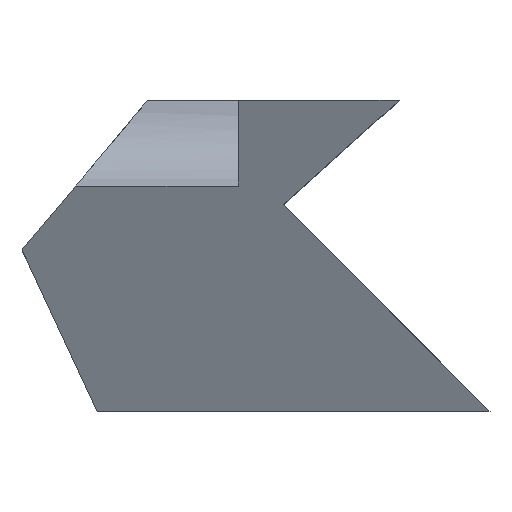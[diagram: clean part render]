
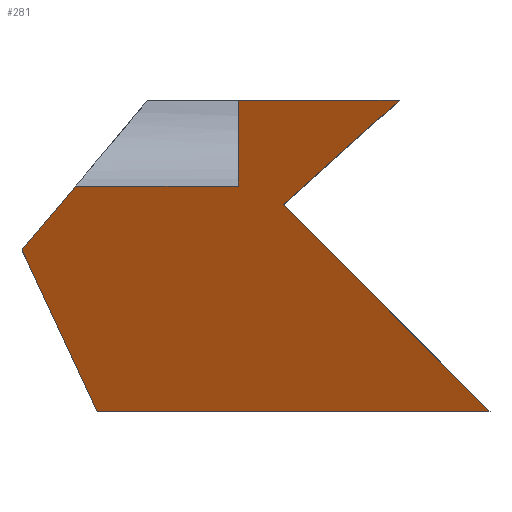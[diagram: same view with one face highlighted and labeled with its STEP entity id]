
A CAD part, top view. The second image highlights one B-rep face of the part: STEP entity #281.
In plain terms, the highlighted planar face has unit normal (0, -0.423, 0.906).
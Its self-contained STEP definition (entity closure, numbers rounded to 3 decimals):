
#16=PLANE('',#321);
#31=FACE_OUTER_BOUND('',#46,.T.);
#46=EDGE_LOOP('',(#207,#208,#209,#210,#211,#212,#213,#214));
#61=LINE('',#411,#98);
#63=LINE('',#419,#100);
#65=LINE('',#423,#102);
#66=LINE('',#425,#103);
#67=LINE('',#427,#104);
#68=LINE('',#429,#105);
#69=LINE('',#431,#106);
#70=LINE('',#432,#107);
#98=VECTOR('',#338,10.);
#100=VECTOR('',#346,10.);
#102=VECTOR('',#350,10.);
#103=VECTOR('',#351,10.);
#104=VECTOR('',#352,10.);
#105=VECTOR('',#353,10.);
#106=VECTOR('',#354,10.);
#107=VECTOR('',#355,10.);
#135=VERTEX_POINT('',#409);
#136=VERTEX_POINT('',#410);
#139=VERTEX_POINT('',#418);
#140=VERTEX_POINT('',#422);
#141=VERTEX_POINT('',#424);
#142=VERTEX_POINT('',#426);
#143=VERTEX_POINT('',#428);
#144=VERTEX_POINT('',#430);
#161=EDGE_CURVE('',#135,#136,#61,.T.);
#165=EDGE_CURVE('',#139,#135,#63,.T.);
#167=EDGE_CURVE('',#140,#136,#65,.T.);
#168=EDGE_CURVE('',#141,#140,#66,.T.);
#169=EDGE_CURVE('',#142,#141,#67,.T.);
#170=EDGE_CURVE('',#143,#142,#68,.T.);
#171=EDGE_CURVE('',#144,#143,#69,.T.);
#172=EDGE_CURVE('',#144,#139,#70,.T.);
#207=ORIENTED_EDGE('',*,*,#165,.T.);
#208=ORIENTED_EDGE('',*,*,#161,.T.);
#209=ORIENTED_EDGE('',*,*,#167,.F.);
#210=ORIENTED_EDGE('',*,*,#168,.F.);
#211=ORIENTED_EDGE('',*,*,#169,.F.);
#212=ORIENTED_EDGE('',*,*,#170,.F.);
#213=ORIENTED_EDGE('',*,*,#171,.F.);
#214=ORIENTED_EDGE('',*,*,#172,.T.);
#281=ADVANCED_FACE('',(#31),#16,.F.);
#321=AXIS2_PLACEMENT_3D('',#421,#348,#349);
#338=DIRECTION('',(-1.,0.,0.));
#346=DIRECTION('',(0.,-0.906,-0.423));
#348=DIRECTION('center_axis',(0.,0.423,-0.906));
#349=DIRECTION('ref_axis',(0.,-0.906,-0.423));
#350=DIRECTION('',(0.605,0.721,0.336));
#351=DIRECTION('',(-0.389,0.835,0.389));
#352=DIRECTION('',(-1.,0.,0.));
#353=DIRECTION('',(0.672,-0.672,-0.313));
#354=DIRECTION('',(-0.709,-0.639,-0.298));
#355=DIRECTION('',(-1.,0.,0.));
#409=CARTESIAN_POINT('',(55.,16.249,60.857));
#410=CARTESIAN_POINT('',(13.634,16.249,60.857));
#411=CARTESIAN_POINT('',(55.,16.249,60.857));
#418=CARTESIAN_POINT('',(55.,38.,71.));
#419=CARTESIAN_POINT('',(55.,38.,71.));
#421=CARTESIAN_POINT('Origin',(119.,38.,71.));
#422=CARTESIAN_POINT('',(0.,0.,53.28));
#423=CARTESIAN_POINT('',(40.617,48.406,75.852));
#424=CARTESIAN_POINT('',(19.119,-41.,34.162));
#425=CARTESIAN_POINT('',(5.536,-11.873,47.744));
#426=CARTESIAN_POINT('',(119.,-41.,34.162));
#427=CARTESIAN_POINT('',(69.059,-41.,34.162));
#428=CARTESIAN_POINT('',(66.478,11.522,58.653));
#429=CARTESIAN_POINT('',(100.905,-22.905,42.599));
#430=CARTESIAN_POINT('',(95.886,38.,71.));
#431=CARTESIAN_POINT('',(80.802,24.418,64.667));
#432=CARTESIAN_POINT('',(95.886,38.,71.));
